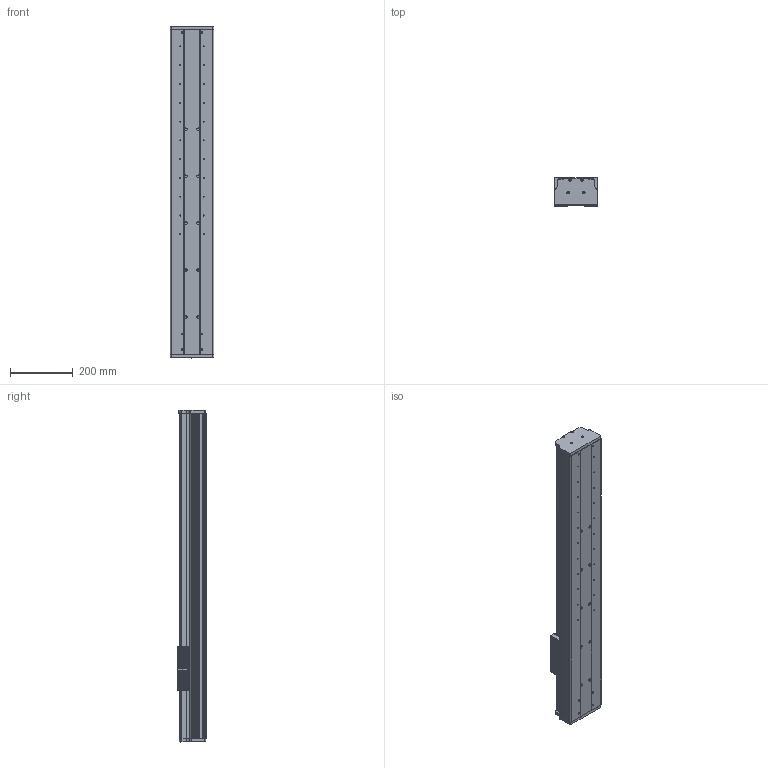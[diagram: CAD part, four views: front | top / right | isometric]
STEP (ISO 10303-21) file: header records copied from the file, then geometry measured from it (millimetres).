
FILE_DESCRIPTION (( 'STEP AP203' ), '1' );
FILE_NAME ('CF140B-C-750-FW.STEP', '2020-06-13T01:41:08', ( 'Micorosoft' ), ( 'Micorosoft' ), 'SwSTEP 2.0', 'SolidWorks 2016', '' );
FILE_SCHEMA (( 'CONFIG_CONTROL_DESIGN' ));
Length unit declared in the file: millimetre
Products named in the file (10): 菁釱; 15賑輸; CF140裔啣; 15絳寢; CF140萇儂啣; CF140蹟譫釱; 140B珨极嘐隅釱; CF140賑雄啣; CF140B-C-750-FW; CF140盓傅釱
Assembly tree (13 placements, depth 2):
  CF140B-C-750-FW
    菁釱
    15賑輸  x4
    15絳寢  x2
    CF140蹟譫釱
    CF140賑雄啣
    CF140盓傅釱
    CF140裔啣
    CF140萇儂啣
    140B珨极嘐隅釱
Bounding box: 140.05 x 89.5 x 1060 mm (x, y, z)
Volume: 4657781.8 mm3; surface area: 1653113.8 mm2
Topology: 13 solids, 13 shells, 1323 faces, 3642 edges, 2366 vertices
Faces by surface type: cylinder 585, plane 545, bspline 121, cone 72
Entity records: 46882 total; most frequent: CARTESIAN_POINT 15019, ORIENTED_EDGE 6524, DIRECTION 6186, EDGE_CURVE 3262, AXIS2_PLACEMENT_3D 2167, VERTEX_POINT 2162, VECTOR 1852, LINE 1852
